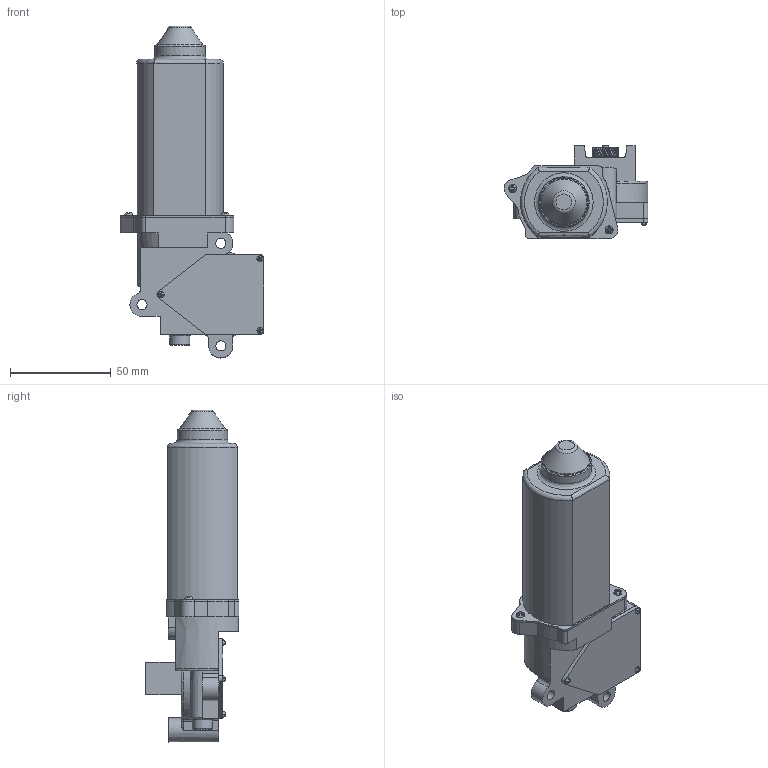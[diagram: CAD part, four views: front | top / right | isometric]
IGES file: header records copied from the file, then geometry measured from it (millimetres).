
Global section: file name: No Iges File Name specified; native system: AutoDesk Inventor R5.0; preprocessor: AutoDesk Inventor Iges Exporter R5.0; author: No Author specified; organization: No Organization specified; date: 20020712.100808; units: millimetre
Bounding box: 71.31 x 46.31 x 164.4 mm (x, y, z)
Surface area: 35504.5 mm2 (no closed solid volume)
Topology: 0 solids, 0 shells, 513 faces, 2520 edges, 2472 vertices
Faces by surface type: revolution 236, bspline 149, plane 128
